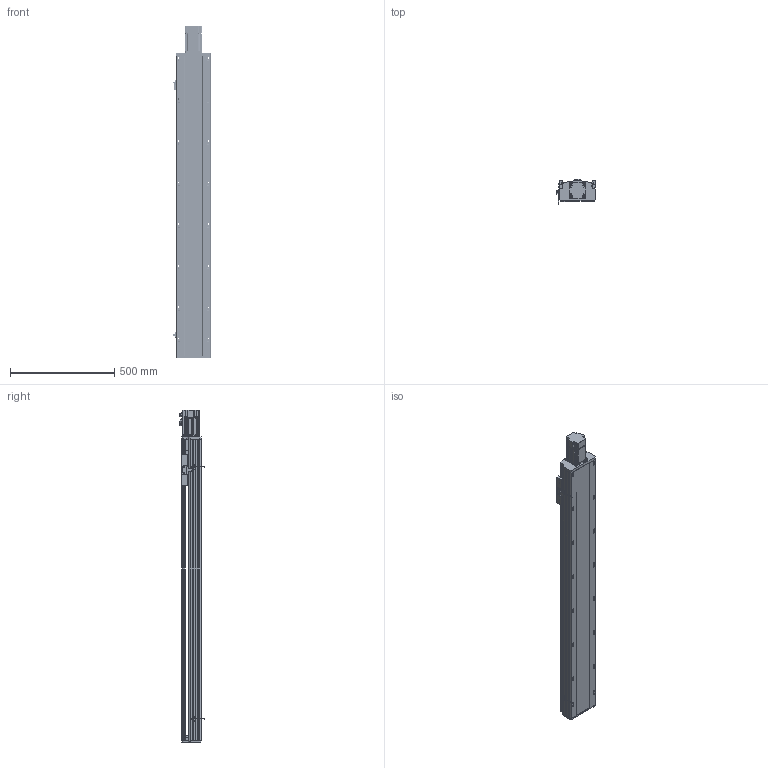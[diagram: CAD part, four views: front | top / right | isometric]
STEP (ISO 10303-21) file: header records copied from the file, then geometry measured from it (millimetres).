
FILE_DESCRIPTION (( 'STEP AP214' ), '1' );
FILE_NAME ('CTH170-1200.STEP', '2019-11-25T09:04:57', ( '微软用户' ), ( '微软中国' ), 'SwSTEP 2.0', 'SolidWorks 2017', '' );
FILE_SCHEMA (( 'AUTOMOTIVE_DESIGN' ));
Length unit declared in the file: millimetre
Products named in the file (32): 170裔啣^CTH170-L10-200; 錨璃8^蚾饜极3_CTH170-L10-200; 錨璃2; 复件 轴承座^装配体3_CTH170-L10-200; 佪話盓傅釱^CTH170-L10-200; CTH170-1200; M5-L16囀鞠褒蹟佪; 遣喳蝶15x12x8-BR L; 支撑座^丝杠支撑座_CTH170-L10-200; B6002Z; _C-BSST2005_n; SFS2005-411-SZC; SFH2010佪裝; M3-L8囀鞠褒蹟佪; 80EMA-016A; EE-SX672峚倰換覜ん; 170萇儂啣; CT17耀郪-覜茼んえ; 170傷啣; M6-L20囀鞠褒蹟佪; EGH20CA; 蚾饜极3^CTH170-L10-200; M5-L20囀鞠褒蹟佪-BR L; M4-L10囀鞠褒蹟佪-BR L; M5-L10囀鞠褒蹟佪; 坶踡蹟簽M15x1; EGH20CA_BLOCK; 潔路遠COL15-A; EG20_RAIL; MISUMI_B7002-DB_盄俶絳砃粣; 170賑怢; BEARING_MISUMI_B7002-DB_盄俶絳砃粣
Assembly tree (79 placements, depth 4):
  CTH170-1200
    錨璃2
    170裔啣^CTH170-L10-200
    170賑怢
    EGH20CA  x2
      EG20_RAIL
      EGH20CA_BLOCK
      M5-L10囀鞠褒蹟佪
      M5-L20囀鞠褒蹟佪-BR L
    170傷啣
    170萇儂啣
    80EMA-016A
    SFS2005-411-SZC
      SFH2010佪裝
    _C-BSST2005_n
    佪話盓傅釱^CTH170-L10-200
      B6002Z
      支撑座^丝杠支撑座_CTH170-L10-200
      遣喳蝶15x12x8-BR L  x2
      M5-L16囀鞠褒蹟佪  x2
    蚾饜极3^CTH170-L10-200
      复件 轴承座^装配体3_CTH170-L10-200
      錨璃8^蚾饜极3_CTH170-L10-200
      MISUMI_B7002-DB_盄俶絳砃粣
        BEARING_MISUMI_B7002-DB_盄俶絳砃粣  x2
      潔路遠COL15-A  x2
      坶踡蹟簽M15x1
      M5-L16囀鞠褒蹟佪  x6
      M4-L10囀鞠褒蹟佪-BR L  x4
    遣喳蝶15x12x8-BR L  x2
    M6-L20囀鞠褒蹟佪  x4
    M4-L10囀鞠褒蹟佪-BR L  x10
    M5-L16囀鞠褒蹟佪  x4
    CT17耀郪-覜茼んえ
    EE-SX672峚倰換覜ん  x2
    M3-L8囀鞠褒蹟佪  x4
Bounding box: 183.7 x 117.95 x 1596 mm (x, y, z)
Volume: 8783259.9 mm3; surface area: 2774986.3 mm2
Topology: 91 solids, 92 shells, 5871 faces, 15489 edges, 9864 vertices
Faces by surface type: plane 3158, cylinder 1662, cone 669, bspline 342, torus 40
Entity records: 107318 total; most frequent: CARTESIAN_POINT 22747, ORIENTED_EDGE 15452, DIRECTION 15129, EDGE_CURVE 7726, AXIS2_PLACEMENT_3D 5332, VERTEX_POINT 5024, LINE 4465, VECTOR 4465
